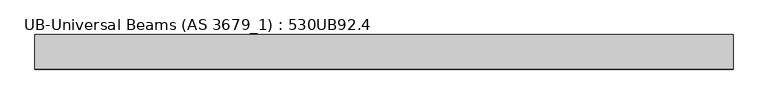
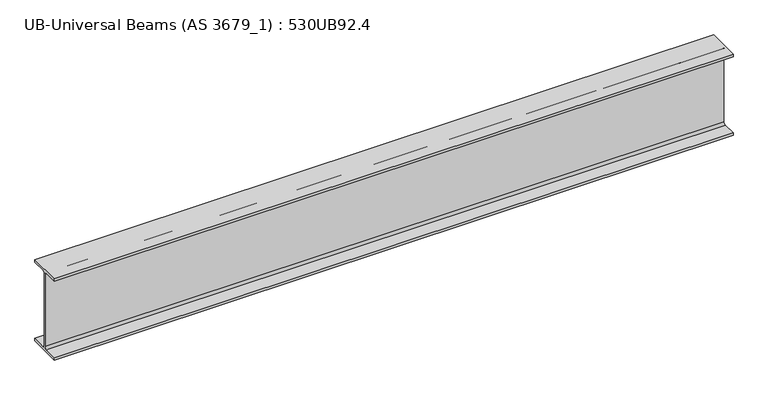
"""IFC4 building model written with IfcOpenShell, lengths in millimetres: beam geometry, UB-Universal Beams (AS 3679_1) : 530UB92.4."""

import ifcopenshell
import ifcopenshell.guid

model = None  # the IFC model being written
_history = None  # IfcOwnerHistory: only IFC2X3 demands one
_inside = {}  # id of a spatial element -> (the spatial element, [elements in it])
_under = {}  # id of a project, library or spatial element -> (it, [spatial elements below it])
_declared = {}  # id of a project -> (the project, [libraries it declares])
_typed = {}  # id of a type object -> (the type object, [elements of that type])
_made_of = {}  # id of a material, layer set ... -> (it, [elements and type objects made of it])


def new_model(schema):
    """Start an empty IFC model of exactly this schema.

    Asked for "IFC4X3", IfcOpenShell would pick the latest addendum, in which some entities
    have other attributes; the version numbers below select the first issue.
    IFC2X3 requires an IfcOwnerHistory on every rooted entity: one is made here for all.
    """
    global model, _history
    if schema == "IFC4X3":
        model = ifcopenshell.file(schema_version=(4, 3, 0, 0))
    else:
        model = ifcopenshell.file(schema=schema)
    _inside.clear()
    _under.clear()
    _declared.clear()
    _typed.clear()
    _made_of.clear()
    _history = None
    if model.schema == "IFC2X3":
        org = make("IfcOrganization", Name="unknown")
        user = make(
            "IfcPersonAndOrganization",
            ThePerson=make("IfcPerson", FamilyName="unknown"),
            TheOrganization=org,
        )
        app = make(
            "IfcApplication",
            ApplicationDeveloper=org,
            Version="unknown",
            ApplicationFullName="unknown",
            ApplicationIdentifier="unknown",
        )
        _history = make(
            "IfcOwnerHistory",
            OwningUser=user,
            OwningApplication=app,
            ChangeAction="ADDED",
            CreationDate=0,
        )
    return model


def make(cls, **values):
    """One entity of the class cls with the attributes given. An attribute that is None is left unset."""
    return model.create_entity(
        cls, **{name: value for name, value in values.items() if value is not None}
    )


def rooted(cls, **values):
    """An entity with a GlobalId (a new one), such as an element, a storey or a relation."""
    return make(cls, GlobalId=ifcopenshell.guid.new(), OwnerHistory=_history, **values)


def si_unit(unit_type, name, prefix=None):
    """IfcSIUnit, for example si_unit("LENGTHUNIT", "METRE", prefix="MILLI")."""
    return make("IfcSIUnit", UnitType=unit_type, Prefix=prefix, Name=name)


def assignment(units):
    """IfcUnitAssignment: the units of a project."""
    return None if units is None else make("IfcUnitAssignment", Units=units)


def point(xyz):
    """IfcCartesianPoint."""
    return None if xyz is None else make("IfcCartesianPoint", Coordinates=xyz)


def direction(xyz):
    """IfcDirection."""
    return None if xyz is None else make("IfcDirection", DirectionRatios=xyz)


def frame(location, z_axis=None, x_axis=None):
    """IfcAxis2Placement3D, a coordinate frame: its origin and axes. An axis left out is left unset."""
    return make(
        "IfcAxis2Placement3D",
        Location=point(location),
        Axis=direction(z_axis),
        RefDirection=direction(x_axis),
    )


def frame_2d(location, x_axis=None):
    """IfcAxis2Placement2D, a coordinate frame in the plane: its origin and x axis."""
    return make(
        "IfcAxis2Placement2D", Location=point(location), RefDirection=direction(x_axis)
    )


def origin():
    """The frame at (0, 0, 0) with its axes left unset."""
    return frame((0.0, 0.0, 0.0))


def place(relative_to, where):
    """IfcLocalPlacement: puts the frame where relative to a parent placement (None: the world)."""
    return make(
        "IfcLocalPlacement", PlacementRelTo=relative_to, RelativePlacement=where
    )


def context(
    kind, dimensions, precision=None, world=None, true_north=None, identifier=None
):
    """IfcGeometricRepresentationContext, for example the 3D "Model" context."""
    return make(
        "IfcGeometricRepresentationContext",
        ContextIdentifier=identifier,
        ContextType=kind,
        CoordinateSpaceDimension=dimensions,
        Precision=precision,
        WorldCoordinateSystem=world,
        TrueNorth=true_north,
    )


def project(units=None, contexts=None):
    """IfcProject with its units and contexts."""
    return rooted(
        "IfcProject",
        Name="project",
        RepresentationContexts=contexts,
        UnitsInContext=assignment(units),
    )


def spatial(cls, under=None, at=None, **own):
    """A site, building, storey or space (cls), placed at a placement, below another one or the project."""
    s = rooted(cls, ObjectPlacement=at, **own)
    if under is not None:
        _under.setdefault(under.id(), (under, []))[1].append(s)
    return s


def polyline(points):
    """IfcPolyline through the points."""
    return make("IfcPolyline", Points=[point(p) for p in points])


def circle_curve(where, radius):
    """IfcCircle in the frame where."""
    return make("IfcCircle", Position=where, Radius=radius)


def trimmed(basis, trim1, trim2, sense, master):
    """IfcTrimmedCurve: the piece of a basis curve between two trims."""
    return make(
        "IfcTrimmedCurve",
        BasisCurve=basis,
        Trim1=trim1,
        Trim2=trim2,
        SenseAgreement=sense,
        MasterRepresentation=master,
    )


def segment(curve, same_sense, transition):
    """IfcCompositeCurveSegment."""
    return make(
        "IfcCompositeCurveSegment",
        Transition=transition,
        SameSense=same_sense,
        ParentCurve=curve,
    )


def composite_curve(segments, self_intersect=None):
    """IfcCompositeCurve: segments joined end to end."""
    return make("IfcCompositeCurve", Segments=segments, SelfIntersect=self_intersect)


def outline(outer, holes=None, kind="AREA"):
    """IfcArbitraryClosedProfileDef: a profile drawn as a closed curve; with holes, ...WithVoids."""
    if holes is None:
        return make("IfcArbitraryClosedProfileDef", ProfileType=kind, OuterCurve=outer)
    return make(
        "IfcArbitraryProfileDefWithVoids",
        ProfileType=kind,
        OuterCurve=outer,
        InnerCurves=holes,
    )


def extrude(swept, where, along, depth):
    """IfcExtrudedAreaSolid: the profile swept, set in the frame where, extruded along a direction by depth."""
    return make(
        "IfcExtrudedAreaSolid",
        SweptArea=swept,
        Position=where,
        ExtrudedDirection=direction(along),
        Depth=depth,
    )


def shape(context_of_items, identifier, shape_type, items):
    """IfcShapeRepresentation: the items that make up one representation, for example the "Body"."""
    return make(
        "IfcShapeRepresentation",
        ContextOfItems=context_of_items,
        RepresentationIdentifier=identifier,
        RepresentationType=shape_type,
        Items=items,
    )


def source(mapping_origin, context_of_items, identifier, shape_type, items):
    """IfcRepresentationMap: a shape defined once, which mapped items show again and again."""
    return make(
        "IfcRepresentationMap",
        MappingOrigin=mapping_origin,
        MappedRepresentation=shape(context_of_items, identifier, shape_type, items),
    )


def transform(
    local_origin,
    x_axis=None,
    y_axis=None,
    z_axis=None,
    scale=None,
    scale2=None,
    scale3=None,
    uniform=True,
):
    """IfcCartesianTransformationOperator3D, or its non-uniform kind. x_axis, y_axis, z_axis: its Axis1, 2, 3."""
    if uniform:
        return make(
            "IfcCartesianTransformationOperator3D",
            Axis1=direction(x_axis),
            Axis2=direction(y_axis),
            LocalOrigin=point(local_origin),
            Scale=scale,
            Axis3=direction(z_axis),
        )
    return make(
        "IfcCartesianTransformationOperator3DnonUniform",
        Axis1=direction(x_axis),
        Axis2=direction(y_axis),
        LocalOrigin=point(local_origin),
        Scale=scale,
        Axis3=direction(z_axis),
        Scale2=scale2,
        Scale3=scale3,
    )


def mapped(mapping_source, mapping_target):
    """IfcMappedItem: shows the shape of a source again, moved by a transform."""
    return make(
        "IfcMappedItem", MappingSource=mapping_source, MappingTarget=mapping_target
    )


def made_of(thing, what):
    """Note that an element or type object is made of a material, layer set ...; save() writes the relation."""
    if what is not None:
        _made_of.setdefault(what.id(), (what, []))[1].append(thing)
    return thing


def element(
    cls,
    number,
    at=None,
    inside=None,
    cuts=None,
    type_object=None,
    material=None,
    context=None,
    identifier="Body",
    shape_type=None,
    held_by="IfcProductDefinitionShape",
    body=None,
    shapes=None,
    **own,
):
    """One element of the class cls, such as IfcWall. Its Tag is "e" and its number.

    at: its placement. inside: the storey or other place that contains it. cuts: it is an
    opening in that element (IfcRelVoidsElement). A single representation is given by context,
    identifier, shape_type and body (its items); several are given by shapes. held_by: the class
    of the entity that holds the representations. save() writes the other relations.
    """
    e = rooted(cls, Tag="e%d" % number, ObjectPlacement=at, **own)
    if body is not None:
        shapes = [shape(context, identifier, shape_type, body)]
    if shapes is not None:
        e.Representation = make(held_by, Representations=shapes)
    if inside is not None:
        _inside.setdefault(inside.id(), (inside, []))[1].append(e)
    if cuts is not None:
        rooted(
            "IfcRelVoidsElement", RelatingBuildingElement=cuts, RelatedOpeningElement=e
        )
    if type_object is not None:
        _typed.setdefault(type_object.id(), (type_object, []))[1].append(e)
    return made_of(e, material)


def aggregate(whole, parts):
    """IfcRelAggregates: a whole, such as a stair, and the parts it consists of."""
    return rooted("IfcRelAggregates", RelatingObject=whole, RelatedObjects=parts)


def save(model, path):
    """Write the relations noted so far, then the file.

    IfcRelAggregates (storeys below a building ...), IfcRelContainedInSpatialStructure (elements
    in a storey), IfcRelDefinesByType, IfcRelAssociatesMaterial and IfcRelDeclares: one each for
    every whole, place, type object, material and project.
    """
    for whole, parts in _under.values():
        aggregate(whole, parts)
    for where, things in _inside.values():
        rooted(
            "IfcRelContainedInSpatialStructure",
            RelatedElements=things,
            RelatingStructure=where,
        )
    for kind, things in _typed.values():
        rooted("IfcRelDefinesByType", RelatedObjects=things, RelatingType=kind)
    for what, things in _made_of.values():
        rooted("IfcRelAssociatesMaterial", RelatedObjects=things, RelatingMaterial=what)
    for by, libraries in _declared.values():
        rooted("IfcRelDeclares", RelatingContext=by, RelatedDefinitions=libraries)
    model.write(path)


def ub_universal_beams_as_3679_1_530ub92_4_fbe5a87e(model_context):
    return source(origin(), model_context, "Body", "SweptSolid", [
        extrude(outline(composite_curve([segment(polyline([(104.5, -250.9), (104.5, -266.5), (-104.5, -266.5), (-104.5, -250.9), (-19.1, -250.9)]), True, "CONTINUOUS"), segment(trimmed(circle_curve(frame_2d((-19.1, -236.9)), 14.0), [point((-19.1, -250.9))], [point((-5.1, -236.9))], True, "CARTESIAN"), True, "CONTINUOUS"), segment(polyline([(-5.1, -236.9), (-5.1, 236.9)]), True, "CONTINUOUS"), segment(trimmed(circle_curve(frame_2d((-19.1, 236.9)), 14.0), [point((-5.1, 236.9))], [point((-19.1, 250.9))], True, "CARTESIAN"), True, "CONTINUOUS"), segment(polyline([(-19.1, 250.9), (-104.5, 250.9), (-104.5, 266.5), (104.5, 266.5), (104.5, 250.9), (19.1, 250.9)]), True, "CONTINUOUS"), segment(trimmed(circle_curve(frame_2d((19.1, 236.9)), 14.0), [point((19.1, 250.9))], [point((5.1, 236.9))], True, "CARTESIAN"), True, "CONTINUOUS"), segment(polyline([(5.1, 236.9), (5.1, -236.9)]), True, "CONTINUOUS"), segment(trimmed(circle_curve(frame_2d((19.1, -236.9)), 14.0), [point((5.1, -236.9))], [point((19.1, -250.9))], True, "CARTESIAN"), True, "CONTINUOUS"), segment(polyline([(19.1, -250.9), (104.5, -250.9)]), True, "CONTINUOUS")], self_intersect=False)), frame((-2072.6, 0.0, 0.0), z_axis=(1.0, 0.0, 0.0), x_axis=(0.0, 1.0, 0.0)), (0.0, 0.0, 1.0), 4219.8),
    ])


if __name__ == "__main__":
    model = new_model("IFC4")
    model_context = context("Model", 3, world=origin())
    ifc_project = project(units=[si_unit("LENGTHUNIT", "METRE", prefix="MILLI")], contexts=[model_context])
    site = spatial("IfcSite", under=ifc_project)
    building = spatial("IfcBuilding", under=site)
    placement = place(None, origin())
    ub_universal_beams_as_3679_1_530ub92_4_shape = ub_universal_beams_as_3679_1_530ub92_4_fbe5a87e(model_context)
    element("IfcBeam", 1, ObjectType="UB-Universal Beams (AS 3679_1) : 530UB92.4", at=placement, inside=building, context=model_context, shape_type="MappedRepresentation", body=[
        mapped(ub_universal_beams_as_3679_1_530ub92_4_shape, transform((0.0, 0.0, 0.0), x_axis=(1.0, 0.0, 0.0), y_axis=(0.0, 1.0, 0.0), z_axis=(0.0, 0.0, 1.0))),
    ])
    save(model, "model.ifc")
